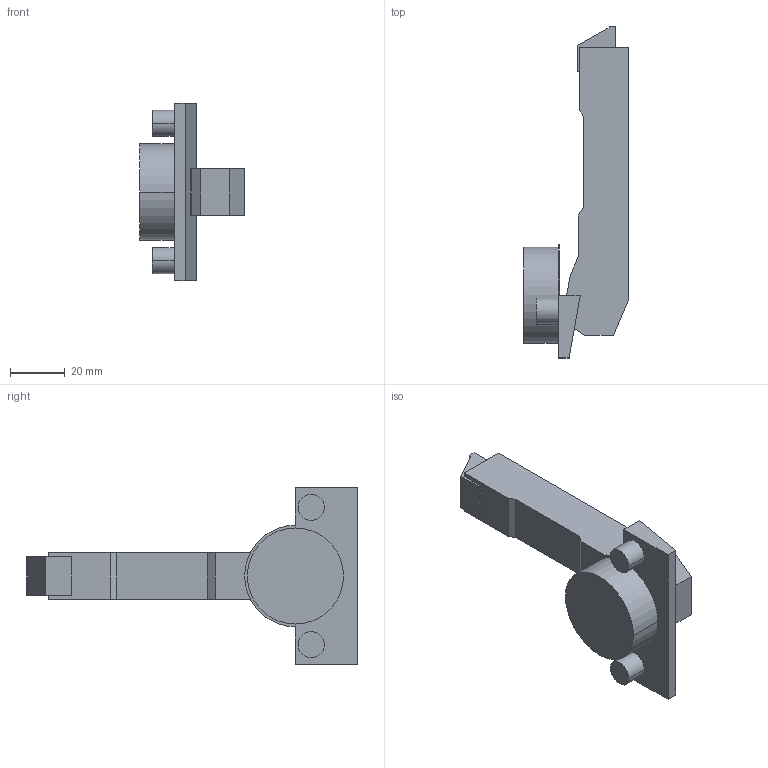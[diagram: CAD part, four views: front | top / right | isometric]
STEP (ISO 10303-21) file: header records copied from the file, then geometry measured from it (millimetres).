
FILE_DESCRIPTION (( 'STEP AP214' ), '1' );
FILE_NAME ('Scharnier T Impresso 110° +90° HS_BB, einliegend.step', '2010-12-13T10:23:05', ( 'grass' ), ( '' ), 'SwSTEP 2.0', 'SolidWorks 2010', '' );
FILE_SCHEMA (( 'AUTOMOTIVE_DESIGN' ));
Length unit declared in the file: millimetre
Products named in the file (1): Scharnier T Impresso 110° +90° HS_BB, einliegend
Bounding box: 38.15 x 120.85 x 64.5 mm (x, y, z)
Volume: 54243.2 mm3; surface area: 14757.3 mm2
Topology: 1 solids, 3 shells, 60 faces, 144 edges, 96 vertices
Faces by surface type: plane 42, cylinder 18
Entity records: 1774 total; most frequent: DIRECTION 302, CARTESIAN_POINT 301, ORIENTED_EDGE 288, EDGE_CURVE 144, VECTOR 108, LINE 108, AXIS2_PLACEMENT_3D 97, VERTEX_POINT 96
